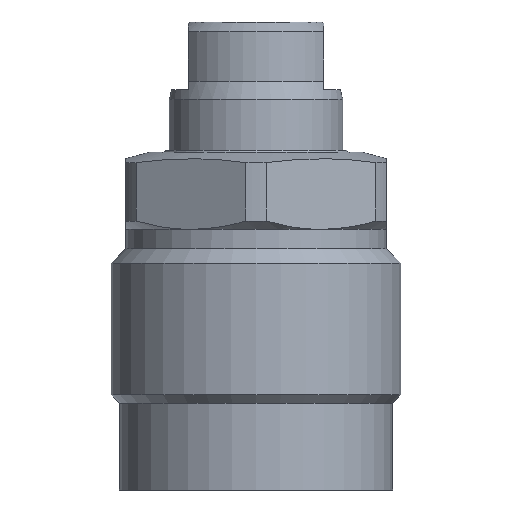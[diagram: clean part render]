
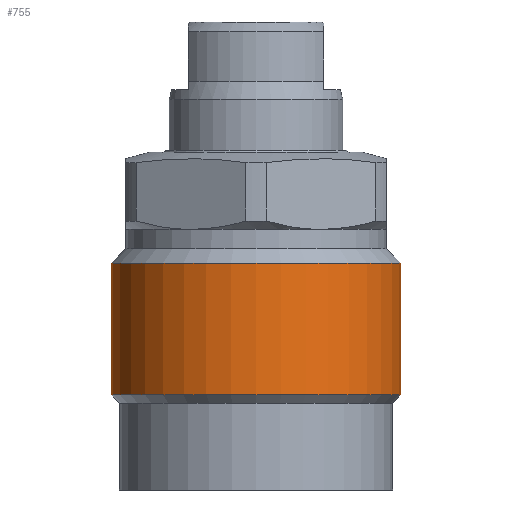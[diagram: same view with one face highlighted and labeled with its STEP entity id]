
A CAD part, front view. The second image highlights one B-rep face of the part: STEP entity #755.
In plain terms, the highlighted cylindrical face has radius 15 mm (diameter 30 mm), a partial arc.
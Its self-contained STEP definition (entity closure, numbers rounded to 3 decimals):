
#400 = DIRECTION ( 'NONE',  ( 0., 0., 1. ) ) ;
#514 = DIRECTION ( 'NONE',  ( 0., 0., 1. ) ) ;
#516 = FACE_OUTER_BOUND ( 'NONE', #2232, .T. ) ;
#517 = CARTESIAN_POINT ( 'NONE',  ( 0., 0., 3.903 ) ) ;
#519 = CYLINDRICAL_SURFACE ( 'NONE', #2758, 15. ) ;
#520 = DIRECTION ( 'NONE',  ( 1., 0., 0. ) ) ;
#727 = EDGE_CURVE ( 'NONE', #1768, #1770, #1985, .T. ) ;
#731 = EDGE_CURVE ( 'NONE', #1754, #1769, #2004, .T. ) ;
#755 = ADVANCED_FACE ( 'NONE', ( #516 ), #519, .T. ) ;
#816 = EDGE_CURVE ( 'NONE', #1768, #1754, #1510, .T. ) ;
#817 = EDGE_CURVE ( 'NONE', #1770, #1769, #1512, .T. ) ;
#948 = CARTESIAN_POINT ( 'NONE',  ( 15., 0., -25.15 ) ) ;
#971 = CARTESIAN_POINT ( 'NONE',  ( -15., 0., -25.15 ) ) ;
#972 = CARTESIAN_POINT ( 'NONE',  ( 15., 0., -11.5 ) ) ;
#973 = CARTESIAN_POINT ( 'NONE',  ( -15., 0., -11.5 ) ) ;
#1293 = CARTESIAN_POINT ( 'NONE',  ( 0., 0., -25.15 ) ) ;
#1294 = DIRECTION ( 'NONE',  ( 0., 0., 1. ) ) ;
#1295 = DIRECTION ( 'NONE',  ( 1., 0., 0. ) ) ;
#1298 = CARTESIAN_POINT ( 'NONE',  ( 0., 0., -11.5 ) ) ;
#1299 = DIRECTION ( 'NONE',  ( 0., 0., 1. ) ) ;
#1300 = DIRECTION ( 'NONE',  ( 1., 0., 0. ) ) ;
#1510 = CIRCLE ( 'NONE', #1513, 15. ) ;
#1512 = CIRCLE ( 'NONE', #1515, 15. ) ;
#1513 = AXIS2_PLACEMENT_3D ( 'NONE', #1293, #1294, #1295 ) ;
#1515 = AXIS2_PLACEMENT_3D ( 'NONE', #1298, #1299, #1300 ) ;
#1754 = VERTEX_POINT ( 'NONE', #948 ) ;
#1768 = VERTEX_POINT ( 'NONE', #971 ) ;
#1769 = VERTEX_POINT ( 'NONE', #972 ) ;
#1770 = VERTEX_POINT ( 'NONE', #973 ) ;
#1985 = LINE ( 'NONE', #1997, #2726 ) ;
#1997 = CARTESIAN_POINT ( 'NONE',  ( -15., 0., 3.903 ) ) ;
#1999 = DIRECTION ( 'NONE',  ( 0., 0., 1. ) ) ;
#2000 = CARTESIAN_POINT ( 'NONE',  ( 15., 0., 3.903 ) ) ;
#2004 = LINE ( 'NONE', #2000, #2733 ) ;
#2109 = ORIENTED_EDGE ( 'NONE', *, *, #727, .F. ) ;
#2110 = ORIENTED_EDGE ( 'NONE', *, *, #816, .T. ) ;
#2111 = ORIENTED_EDGE ( 'NONE', *, *, #731, .T. ) ;
#2112 = ORIENTED_EDGE ( 'NONE', *, *, #817, .F. ) ;
#2232 = EDGE_LOOP ( 'NONE', ( #2109, #2110, #2111, #2112 ) ) ;
#2726 = VECTOR ( 'NONE', #1999, 1000. ) ;
#2733 = VECTOR ( 'NONE', #400, 1000. ) ;
#2758 = AXIS2_PLACEMENT_3D ( 'NONE', #517, #514, #520 ) ;
